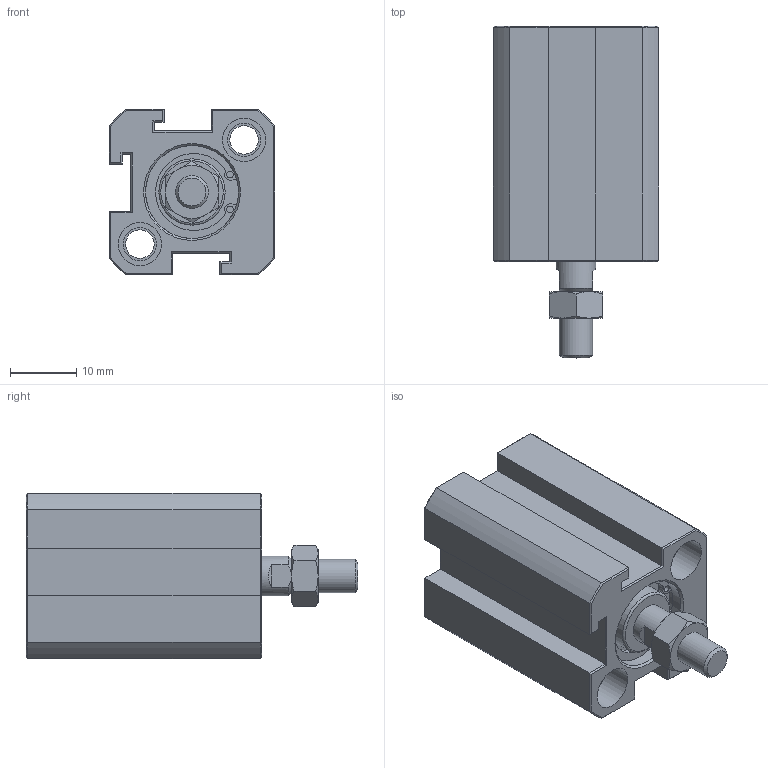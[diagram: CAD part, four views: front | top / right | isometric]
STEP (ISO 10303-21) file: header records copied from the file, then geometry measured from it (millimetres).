
FILE_DESCRIPTION(/* description */ (''),/* implementation_level */ '2;1');
FILE_NAME(/* name */ 'AJC-SDM12X5W',/* time_stamp */ '2019-07-05T16:08:50+08:00',/* author */ ('JEFF HUANG'),/* organization */ ('TAIWAN AMAC CLAMP INDUSTRIAL CO., LTD.'),/* preprocessor_version */ 'ST-DEVELOPER v16.7',/* originating_system */ 'DEX',/* authorisation */ $);
FILE_SCHEMA (('AUTOMOTIVE_DESIGN {1 0 10303 214 3 1 1}'));
Length unit declared in the file: millimetre
Products named in the file (1): AJC-SDM12X5W
Bounding box: 25 x 50 x 25 mm (x, y, z)
Volume: 17364.9 mm3; surface area: 7393 mm2
Topology: 1 solids, 1 shells, 172 faces, 373 edges, 224 vertices
Faces by surface type: plane 107, cylinder 38, cone 25, torus 2
Full cylindrical faces by diameter (mm): 1 x4, 4.3 x2, 5 x7, 6 x1, 6.5 x4, 10 x2, 14 x2
Entity records: 5702 total; most frequent: CARTESIAN_POINT 867, DIRECTION 752, ORIENTED_EDGE 684, EDGE_CURVE 342, AXIS2_PLACEMENT_3D 281, EDGE_LOOP 224, FACE_BOUND 224, VERTEX_POINT 220
